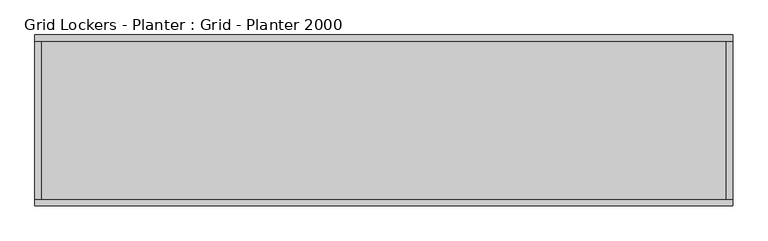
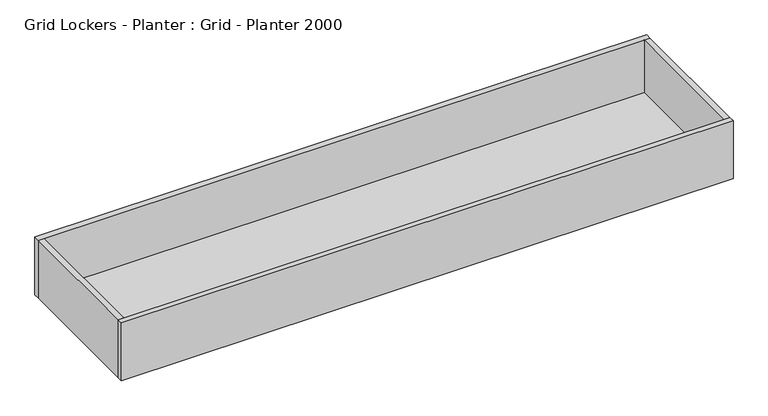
"""IFC4 building model written with IfcOpenShell, lengths in millimetres: furniture geometry, Grid Lockers - Planter : Grid - Planter 2000."""

from ifc_helpers import new_model, si_unit, origin, origin_with_axes, place, context, project, spatial, polyline, outline, extrude, source, transform, mapped, element, save


def grid_lockers_planter_grid_planter_2000_ba6c8cc2(model_context):
    return source(origin(), model_context, "Body", "SweptSolid", [
        extrude(outline(polyline([(0.0, -18.0), (0.0, 0.0), (2000.0, 0.0), (2000.0, -18.0), (0.0, -18.0)])), origin_with_axes(), (0.0, 0.0, 1.0), 200.0),
        extrude(outline(polyline([(0.0, -490.0), (0.0, -472.0), (2000.0, -472.0), (2000.0, -490.0), (0.0, -490.0)])), origin_with_axes(), (0.0, 0.0, 1.0), 200.0),
        extrude(outline(polyline([(1982.0, -18.0), (2000.0, -18.0), (2000.0, -472.0), (1982.0, -472.0), (1982.0, -18.0)])), origin_with_axes(), (0.0, 0.0, 1.0), 200.0),
        extrude(outline(polyline([(0.0, -18.0), (18.0, -18.0), (18.0, -472.0), (0.0, -472.0), (0.0, -18.0)])), origin_with_axes(), (0.0, 0.0, 1.0), 200.0),
        extrude(outline(polyline([(1982.0, -472.0), (18.0, -472.0), (18.0, -18.0), (1982.0, -18.0), (1982.0, -472.0)])), origin_with_axes(), (0.0, 0.0, 1.0), 18.0),
    ])


if __name__ == "__main__":
    model = new_model("IFC4")
    model_context = context("Model", 3, world=origin())
    ifc_project = project(units=[si_unit("LENGTHUNIT", "METRE", prefix="MILLI")], contexts=[model_context])
    site = spatial("IfcSite", under=ifc_project)
    building = spatial("IfcBuilding", under=site)
    placement = place(None, origin())
    grid_lockers_planter_grid_planter_2000_shape = grid_lockers_planter_grid_planter_2000_ba6c8cc2(model_context)
    element("IfcFurniture", 1, ObjectType="Grid Lockers - Planter : Grid - Planter 2000", at=placement, inside=building, context=model_context, shape_type="MappedRepresentation", body=[
        mapped(grid_lockers_planter_grid_planter_2000_shape, transform((0.0, 0.0, 0.0), x_axis=(1.0, 0.0, 0.0), y_axis=(0.0, 1.0, 0.0), z_axis=(0.0, 0.0, 1.0))),
    ])
    save(model, "model.ifc")
